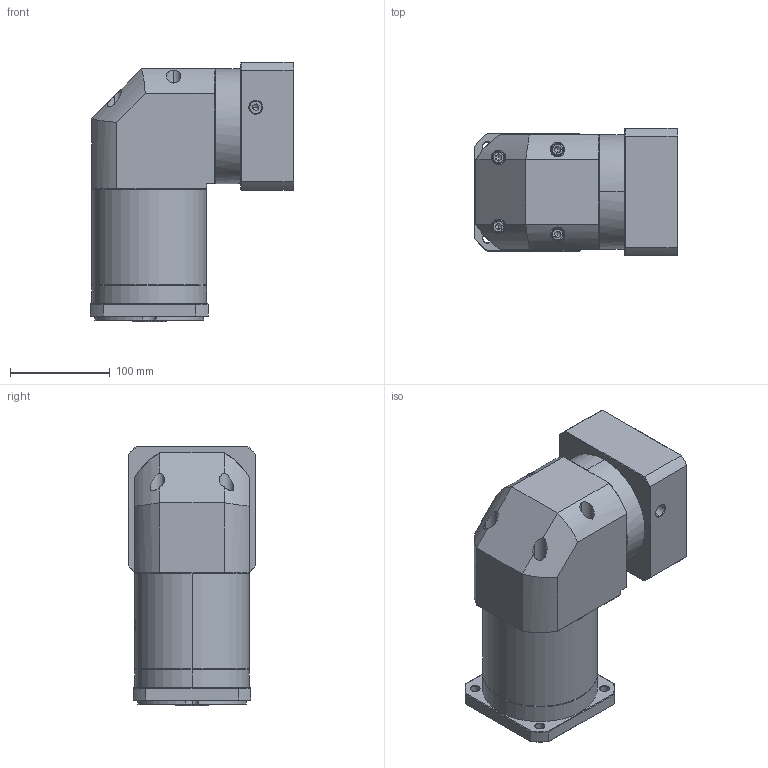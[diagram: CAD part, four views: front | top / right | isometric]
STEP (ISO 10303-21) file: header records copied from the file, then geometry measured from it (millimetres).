
FILE_DESCRIPTION (( 'STEP AP214' ), '1' );
FILE_NAME ('ZFR120A-K25-L3-P2-28-110-145-M8.step', '2023-08-27T08:18:31', ( '' ), ( '' ), 'SwSTEP 2.0', 'SolidWorks 2016', '' );
FILE_SCHEMA (( 'AUTOMOTIVE_DESIGN' ));
Length unit declared in the file: millimetre
Products named in the file (1): ZFR120A-K25-L3-P2-28-110-145-M8
Bounding box: 203.9 x 128 x 260 mm (x, y, z)
Volume: 3629029.7 mm3; surface area: 277187.5 mm2
Topology: 6 solids, 6 shells, 2211 faces, 5832 edges, 3723 vertices
Faces by surface type: plane 1055, bspline 416, cylinder 401, cone 331, torus 8
Entity records: 118766 total; most frequent: CARTESIAN_POINT 45106, ORIENTED_EDGE 11608, DIRECTION 8426, EDGE_CURVE 5804, VERTEX_POINT 3723, VECTOR 3110, LINE 3110, AXIS2_PLACEMENT_3D 2658
